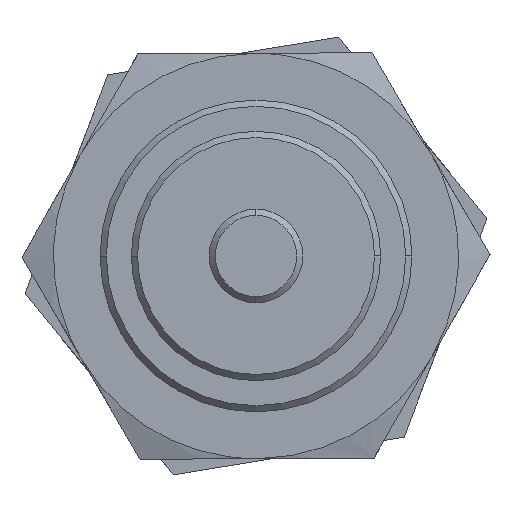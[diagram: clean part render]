
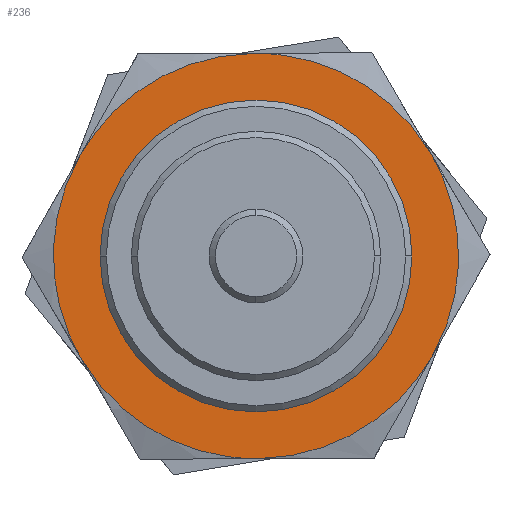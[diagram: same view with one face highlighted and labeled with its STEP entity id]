
A CAD part, left-side view. The second image highlights one B-rep face of the part: STEP entity #236.
In plain terms, the highlighted planar face has unit normal (-1, 0, 0) as drawn and (1, 0, 0) by its records, which use the part's own axes.
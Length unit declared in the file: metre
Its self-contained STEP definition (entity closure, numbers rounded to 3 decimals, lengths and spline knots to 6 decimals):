
#48 = DIRECTION ( 'NONE',  ( 0., 0., -1. ) ) ;
#69 = VERTEX_POINT ( 'NONE', #148 ) ;
#77 = CARTESIAN_POINT ( 'NONE',  ( 0.0015, 0.005629, -0.00325 ) ) ;
#106 = CARTESIAN_POINT ( 'NONE',  ( 0.0015, 0., 0.0065 ) ) ;
#119 = CARTESIAN_POINT ( 'NONE',  ( 0.0015, 0.006819, -0.00119 ) ) ;
#148 = CARTESIAN_POINT ( 'NONE',  ( 0.0015, 0., -0.0065 ) ) ;
#175 =( BOUNDED_CURVE ( )  B_SPLINE_CURVE ( 3, ( #795, #119, #227, #1015 ),
 .UNSPECIFIED., .F., .T. ) 
 B_SPLINE_CURVE_WITH_KNOTS ( ( 4, 4 ),
 ( 0., 0.00678 ),
 .UNSPECIFIED. ) 
 CURVE ( )  GEOMETRIC_REPRESENTATION_ITEM ( )  RATIONAL_B_SPLINE_CURVE ( ( 0.991, 0.902, 0.902, 0.991 ) ) 
 REPRESENTATION_ITEM ( '' )  );
#192 = AXIS2_PLACEMENT_3D ( 'NONE', #1028, #1261, #860 ) ;
#211 = ORIENTED_EDGE ( 'NONE', *, *, #851, .F. ) ;
#227 = CARTESIAN_POINT ( 'NONE',  ( 0.0015, 0.006819, 0.00119 ) ) ;
#236 = ADVANCED_FACE ( 'NONE', ( #834, #1121 ), #829, .T. ) ;
#252 =( BOUNDED_CURVE ( )  B_SPLINE_CURVE ( 3, ( #965, #1078, #1191, #519 ),
 .UNSPECIFIED., .F., .F. ) 
 B_SPLINE_CURVE_WITH_KNOTS ( ( 4, 4 ),
 ( 0., 0.00678 ),
 .UNSPECIFIED. ) 
 CURVE ( )  GEOMETRIC_REPRESENTATION_ITEM ( )  RATIONAL_B_SPLINE_CURVE ( ( 0.991, 0.902, 0.902, 0.991 ) ) 
 REPRESENTATION_ITEM ( '' )  );
#267 = VERTEX_POINT ( 'NONE', #628 ) ;
#312 = EDGE_LOOP ( 'NONE', ( #211, #997 ) ) ;
#314 = VERTEX_POINT ( 'NONE', #1467 ) ;
#323 = CARTESIAN_POINT ( 'NONE',  ( 0.0015, 0.002379, -0.0065 ) ) ;
#335 = CARTESIAN_POINT ( 'NONE',  ( 0.0015, 0.005629, 0.00325 ) ) ;
#339 = VERTEX_POINT ( 'NONE', #776 ) ;
#357 =( BOUNDED_CURVE ( )  B_SPLINE_CURVE ( 3, ( #1184, #510, #626, #1428 ),
 .UNSPECIFIED., .F., .F. ) 
 B_SPLINE_CURVE_WITH_KNOTS ( ( 4, 4 ),
 ( 0., 0.00678 ),
 .UNSPECIFIED. ) 
 CURVE ( )  GEOMETRIC_REPRESENTATION_ITEM ( )  RATIONAL_B_SPLINE_CURVE ( ( 0.991, 0.903, 0.903, 0.992 ) ) 
 REPRESENTATION_ITEM ( '' )  );
#367 = ORIENTED_EDGE ( 'NONE', *, *, #1017, .T. ) ;
#382 = AXIS2_PLACEMENT_3D ( 'NONE', #1406, #724, #48 ) ;
#387 = DIRECTION ( 'NONE',  ( 0., 0., -1. ) ) ;
#410 = CARTESIAN_POINT ( 'NONE',  ( 0.0015, -0.002379, 0.0065 ) ) ;
#420 = VERTEX_POINT ( 'NONE', #77 ) ;
#433 = CARTESIAN_POINT ( 'NONE',  ( 0.0015, 0.00444, -0.00531 ) ) ;
#466 =( BOUNDED_CURVE ( )  B_SPLINE_CURVE ( 3, ( #1112, #323, #433, #1232 ),
 .UNSPECIFIED., .F., .F. ) 
 B_SPLINE_CURVE_WITH_KNOTS ( ( 4, 4 ),
 ( 0., 0.00678 ),
 .UNSPECIFIED. ) 
 CURVE ( )  GEOMETRIC_REPRESENTATION_ITEM ( )  RATIONAL_B_SPLINE_CURVE ( ( 0.991, 0.902, 0.902, 0.991 ) ) 
 REPRESENTATION_ITEM ( '' )  );
#492 =( BOUNDED_CURVE ( )  B_SPLINE_CURVE ( 3, ( #1228, #668, #1472, #782 ),
 .UNSPECIFIED., .F., .F. ) 
 B_SPLINE_CURVE_WITH_KNOTS ( ( 4, 4 ),
 ( 0., 0.00678 ),
 .UNSPECIFIED. ) 
 CURVE ( )  GEOMETRIC_REPRESENTATION_ITEM ( )  RATIONAL_B_SPLINE_CURVE ( ( 0.991, 0.902, 0.902, 0.991 ) ) 
 REPRESENTATION_ITEM ( '' )  );
#510 = CARTESIAN_POINT ( 'NONE',  ( 0.0015, 0.004439, 0.005311 ) ) ;
#517 = ORIENTED_EDGE ( 'NONE', *, *, #1113, .T. ) ;
#519 = CARTESIAN_POINT ( 'NONE',  ( 0.0015, -0.005629, -0.00325 ) ) ;
#537 = ORIENTED_EDGE ( 'NONE', *, *, #1169, .T. ) ;
#626 = CARTESIAN_POINT ( 'NONE',  ( 0.0015, 0.002378, 0.0065 ) ) ;
#628 = CARTESIAN_POINT ( 'NONE',  ( 0.0015, -0.005629, 0.00325 ) ) ;
#668 = CARTESIAN_POINT ( 'NONE',  ( 0.0015, -0.00444, -0.00531 ) ) ;
#679 = EDGE_CURVE ( 'NONE', #1358, #314, #1108, .T. ) ;
#693 = AXIS2_PLACEMENT_3D ( 'NONE', #1039, #1264, #387 ) ;
#724 = DIRECTION ( 'NONE',  ( 1., 0., 0. ) ) ;
#762 = CARTESIAN_POINT ( 'NONE',  ( 0.0015, -0.005629, 0.00325 ) ) ;
#776 = CARTESIAN_POINT ( 'NONE',  ( 0.0015, -0.005629, -0.00325 ) ) ;
#782 = CARTESIAN_POINT ( 'NONE',  ( 0.0015, 0., -0.0065 ) ) ;
#784 = EDGE_LOOP ( 'NONE', ( #1234, #1061, #898, #367, #517, #537 ) ) ;
#795 = CARTESIAN_POINT ( 'NONE',  ( 0.0015, 0.005629, -0.00325 ) ) ;
#829 = PLANE ( 'NONE',  #693 ) ;
#834 = FACE_BOUND ( 'NONE', #312, .T. ) ;
#851 = EDGE_CURVE ( 'NONE', #314, #1358, #967, .T. ) ;
#860 = DIRECTION ( 'NONE',  ( 0., 0., -1. ) ) ;
#898 = ORIENTED_EDGE ( 'NONE', *, *, #1009, .T. ) ;
#961 = VERTEX_POINT ( 'NONE', #335 ) ;
#962 = CARTESIAN_POINT ( 'NONE',  ( 0.0015, 0., 0.0045 ) ) ;
#965 = CARTESIAN_POINT ( 'NONE',  ( 0.0015, -0.005629, 0.00325 ) ) ;
#967 = CIRCLE ( 'NONE', #382, 0.0045 ) ;
#997 = ORIENTED_EDGE ( 'NONE', *, *, #679, .F. ) ;
#1009 = EDGE_CURVE ( 'NONE', #339, #69, #492, .T. ) ;
#1015 = CARTESIAN_POINT ( 'NONE',  ( 0.0015, 0.005629, 0.00325 ) ) ;
#1017 = EDGE_CURVE ( 'NONE', #69, #420, #466, .T. ) ;
#1028 = CARTESIAN_POINT ( 'NONE',  ( 0.0015, 0., 0. ) ) ;
#1031 = VERTEX_POINT ( 'NONE', #106 ) ;
#1039 = CARTESIAN_POINT ( 'NONE',  ( 0.0015, -0.006578, 0.006578 ) ) ;
#1061 = ORIENTED_EDGE ( 'NONE', *, *, #1374, .T. ) ;
#1078 = CARTESIAN_POINT ( 'NONE',  ( 0.0015, -0.006819, 0.00119 ) ) ;
#1108 = CIRCLE ( 'NONE', #192, 0.0045 ) ;
#1112 = CARTESIAN_POINT ( 'NONE',  ( 0.0015, 0., -0.0065 ) ) ;
#1113 = EDGE_CURVE ( 'NONE', #420, #961, #175, .T. ) ;
#1121 = FACE_OUTER_BOUND ( 'NONE', #784, .T. ) ;
#1169 = EDGE_CURVE ( 'NONE', #961, #1031, #357, .T. ) ;
#1184 = CARTESIAN_POINT ( 'NONE',  ( 0.0015, 0.005629, 0.00325 ) ) ;
#1191 = CARTESIAN_POINT ( 'NONE',  ( 0.0015, -0.006819, -0.00119 ) ) ;
#1228 = CARTESIAN_POINT ( 'NONE',  ( 0.0015, -0.005629, -0.00325 ) ) ;
#1232 = CARTESIAN_POINT ( 'NONE',  ( 0.0015, 0.005629, -0.00325 ) ) ;
#1234 = ORIENTED_EDGE ( 'NONE', *, *, #1256, .T. ) ;
#1256 = EDGE_CURVE ( 'NONE', #1031, #267, #1312, .T. ) ;
#1261 = DIRECTION ( 'NONE',  ( 1., 0., 0. ) ) ;
#1264 = DIRECTION ( 'NONE',  ( 1., 0., 0. ) ) ;
#1312 =( BOUNDED_CURVE ( )  B_SPLINE_CURVE ( 3, ( #1328, #410, #1449, #762 ),
 .UNSPECIFIED., .F., .F. ) 
 B_SPLINE_CURVE_WITH_KNOTS ( ( 4, 4 ),
 ( 0., 0.00678 ),
 .UNSPECIFIED. ) 
 CURVE ( )  GEOMETRIC_REPRESENTATION_ITEM ( )  RATIONAL_B_SPLINE_CURVE ( ( 0.991, 0.902, 0.902, 0.991 ) ) 
 REPRESENTATION_ITEM ( '' )  );
#1328 = CARTESIAN_POINT ( 'NONE',  ( 0.0015, 0., 0.0065 ) ) ;
#1358 = VERTEX_POINT ( 'NONE', #962 ) ;
#1374 = EDGE_CURVE ( 'NONE', #267, #339, #252, .T. ) ;
#1406 = CARTESIAN_POINT ( 'NONE',  ( 0.0015, 0., 0. ) ) ;
#1428 = CARTESIAN_POINT ( 'NONE',  ( 0.0015, 0., 0.0065 ) ) ;
#1449 = CARTESIAN_POINT ( 'NONE',  ( 0.0015, -0.00444, 0.00531 ) ) ;
#1467 = CARTESIAN_POINT ( 'NONE',  ( 0.0015, 0., -0.0045 ) ) ;
#1472 = CARTESIAN_POINT ( 'NONE',  ( 0.0015, -0.002379, -0.0065 ) ) ;
